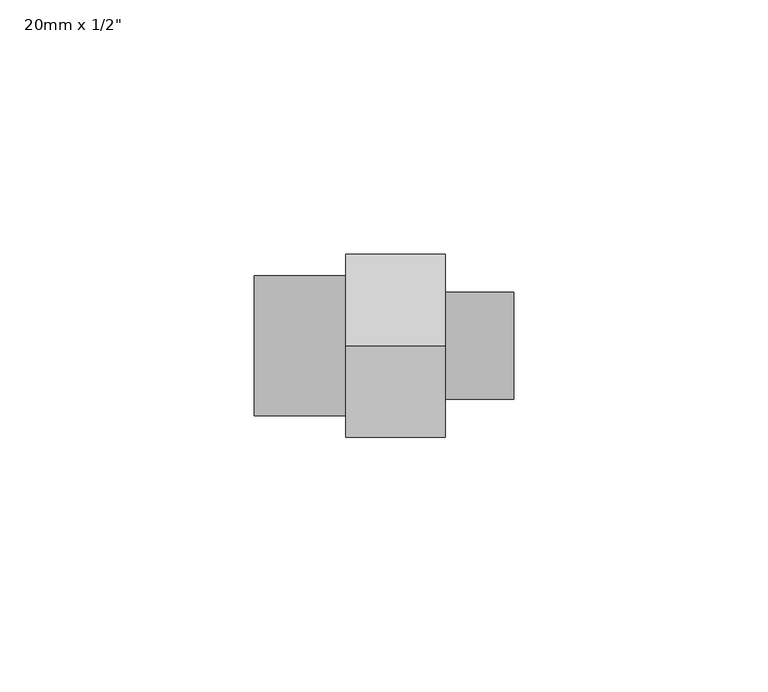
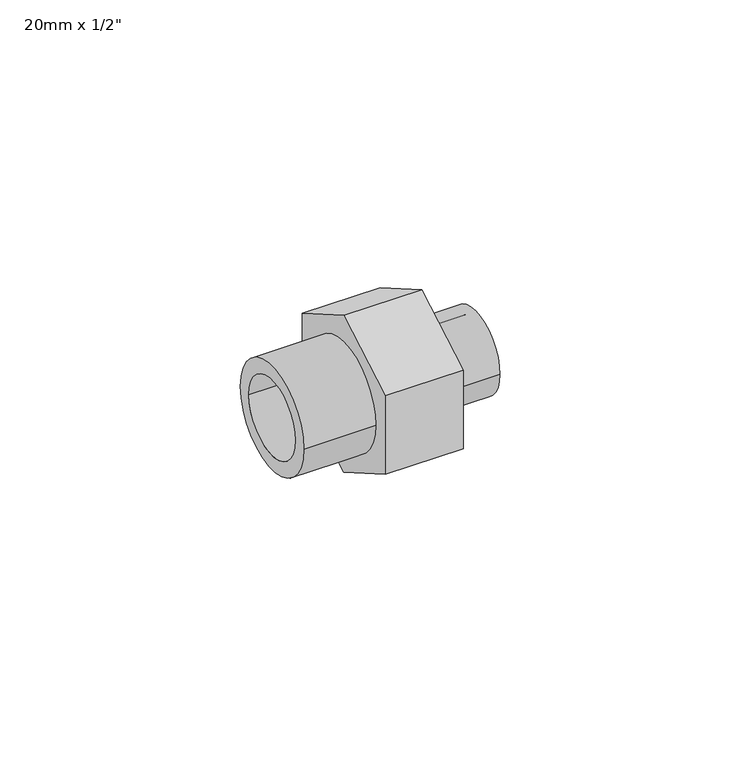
"""IFC4 building model written with IfcOpenShell, lengths in millimetres: pipe fitting geometry."""

from ifc_helpers import new_model, si_unit, point, frame, origin, origin_2d, place, context, project, spatial, polyline, circle_curve, trimmed, segment, composite_curve, outline, extrude, source, transform, mapped, element, save
from ifc_brep_helpers import plane_surface, cylinder_surface, revolved_surface, advanced_brep


def pipe_fitting_8244745b(model_context):
    return source(origin(), model_context, "Body", "SolidModel", [
        extrude(outline(composite_curve([segment(trimmed(circle_curve(origin_2d(), 13.75), [point((-13.75, 0.0))], [point((13.75, 0.0))], False, "CARTESIAN"), True, "CONTINUOUS"), segment(trimmed(circle_curve(origin_2d(), 13.75), [point((13.75, 0.0))], [point((-13.75, 0.0))], False, "CARTESIAN"), True, "CONTINUOUS")], self_intersect=False), holes=[composite_curve([segment(trimmed(circle_curve(origin_2d(), 10.0), [point((-10.0, 0.0))], [point((10.0, 0.0))], True, "CARTESIAN"), True, "CONTINUOUS"), segment(trimmed(circle_curve(origin_2d(), 10.0), [point((10.0, 0.0))], [point((-10.0, 0.0))], True, "CARTESIAN"), True, "CONTINUOUS")], self_intersect=False)]), frame((-9.0, 0.0, 0.0), z_axis=(1.0, 0.0, 0.0), x_axis=(0.0, 1.0, 0.0)), (0.0, 0.0, 1.0), 18.0),
        advanced_brep(
        [(42.0, -10.5, 0.0), (42.0, 10.5, 0.0), (42.0, 8.0, 0.0), (42.0, -8.0, 0.0), (28.5, 10.5, 0.0), (28.5, -10.5, 0.0), (9.0, 0.0, 20.7846097), (9.0, 18.0, 10.3923048), (9.0, 18.0, -10.3923048), (9.0, 0.0, -20.7846097), (9.0, -18.0, -10.3923048), (9.0, -18.0, 10.3923048), (9.0, -8.0, 0.0), (9.0, 8.0, 0.0), (28.5, 0.0, 20.7846097), (28.5, -18.0, 10.3923048), (28.5, -18.0, -10.3923048), (28.5, 0.0, -20.7846097), (28.5, 18.0, -10.3923048), (28.5, 18.0, 10.3923048)],
        [
            (0, 1, circle_curve(frame((42.0, 0.0, 0.0), z_axis=(1.0, 0.0, 0.0), x_axis=(0.0, 1.0, 0.0)), 10.5)),
            (1, 0, circle_curve(frame((42.0, 0.0, 0.0), z_axis=(1.0, 0.0, 0.0), x_axis=(0.0, 1.0, 0.0)), 10.5)),
            (2, 3, circle_curve(frame((42.0, 0.0, 0.0), z_axis=(-1.0, 0.0, 0.0), x_axis=(0.0, -1.0, 0.0)), 8.0)),
            (3, 2, circle_curve(frame((42.0, 0.0, 0.0), z_axis=(-1.0, 0.0, 0.0), x_axis=(0.0, -1.0, 0.0)), 8.0)),
            (1, 4),
            (4, 5, circle_curve(frame((28.5, 0.0, 0.0), z_axis=(1.0, 0.0, 0.0), x_axis=(0.0, 1.0, 0.0)), 10.5)),
            (5, 0),
            (5, 4, circle_curve(frame((28.5, 0.0, 0.0), z_axis=(1.0, 0.0, 0.0), x_axis=(0.0, 1.0, 0.0)), 10.5)),
            (6, 7),
            (7, 8),
            (8, 9),
            (9, 10),
            (10, 11),
            (11, 6),
            (12, 13, circle_curve(frame((9.0, 0.0, 0.0), z_axis=(1.0, 0.0, 0.0), x_axis=(0.0, -1.0, 0.0)), 8.0)),
            (13, 12, circle_curve(frame((9.0, 0.0, 0.0), z_axis=(1.0, 0.0, 0.0), x_axis=(0.0, -1.0, 0.0)), 8.0)),
            (14, 15),
            (15, 16),
            (16, 17),
            (17, 18),
            (18, 19),
            (19, 14),
            (6, 14),
            (19, 7),
            (18, 8),
            (17, 9),
            (16, 10),
            (15, 11),
            (12, 3),
            (2, 13),
        ],
        [
            plane_surface(frame((42.0, 0.0, 0.0), z_axis=(1.0, 0.0, 0.0), x_axis=(0.0, 0.0, 1.0))),
            cylinder_surface(frame((28.5, 0.0, 0.0), z_axis=(-1.0, 0.0, 0.0), x_axis=(0.0, 1.0, 0.0)), 10.5),
            plane_surface(frame((9.0, 0.0, 0.0), z_axis=(-1.0, 0.0, 0.0), x_axis=(0.0, 0.0, 1.0))),
            plane_surface(frame((28.5, 0.0, 0.0), z_axis=(1.0, 0.0, 0.0), x_axis=(0.0, 0.0, 1.0))),
            plane_surface(frame((9.0, 0.0, 20.7846097), z_axis=(0.0, 0.4999999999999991, 0.8660254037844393), x_axis=(1.0, 0.0, 0.0))),
            plane_surface(frame((9.0, 18.0, 10.3923048), z_axis=(0.0, 1.0, 0.0), x_axis=(1.0, 0.0, 0.0))),
            plane_surface(frame((9.0, 18.0, -10.3923048), z_axis=(0.0, 0.4999999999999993, -0.866025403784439), x_axis=(1.0, 0.0, 0.0))),
            plane_surface(frame((9.0, 0.0, -20.7846097), z_axis=(0.0, -0.49999999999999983, -0.8660254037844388), x_axis=(1.0, 0.0, 0.0))),
            plane_surface(frame((9.0, -18.0, -10.3923048), z_axis=(0.0, -1.0, 0.0), x_axis=(1.0, 0.0, 0.0))),
            plane_surface(frame((9.0, -18.0, 10.3923048), z_axis=(0.0, -0.4999999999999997, 0.8660254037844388), x_axis=(1.0, 0.0, 0.0))),
            revolved_surface(polyline([(9.0, -8.0, 0.0), (42.0, -8.0, 0.0)]), (42.0, 0.0, 0.0), (-1.0, 0.0, 0.0)),
        ],
        [
            (0, [[1, 2], [3, 4]]),
            (1, [[-2, 5, 6, 7]]),
            (1, [[-1, -7, 8, -5]]),
            (2, [[9, 10, 11, 12, 13, 14], [15, 16]]),
            (3, [[17, 18, 19, 20, 21, 22], [-6, -8]]),
            (4, [[-9, 23, -22, 24]]),
            (5, [[-10, -24, -21, 25]]),
            (6, [[-11, -25, -20, 26]]),
            (7, [[-12, -26, -19, 27]]),
            (8, [[-13, -27, -18, 28]]),
            (9, [[-14, -28, -17, -23]]),
            (10, [[29, -3, 30, -15]]),
            (10, [[-29, -16, -30, -4]]),
        ],
    ),
    ])


if __name__ == "__main__":
    model = new_model("IFC4")
    model_context = context("Model", 3, world=origin())
    ifc_project = project(units=[si_unit("LENGTHUNIT", "METRE", prefix="MILLI")], contexts=[model_context])
    site = spatial("IfcSite", under=ifc_project)
    building = spatial("IfcBuilding", under=site)
    placement = place(None, origin())
    pipe_fitting_shape = pipe_fitting_8244745b(model_context)
    element("IfcPipeFitting", 1, ObjectType="PipeFitting_HTA_CPVC_Male3PieceUnions_(CPVC-Brass) : 20mm x 1/2\"", at=placement, inside=building, context=model_context, shape_type="MappedRepresentation", body=[
        mapped(pipe_fitting_shape, transform((0.0, 0.0, 0.0), x_axis=(1.0, 0.0, 0.0), y_axis=(0.0, 1.0, 0.0), z_axis=(0.0, 0.0, 1.0))),
    ])
    save(model, "model.ifc")
